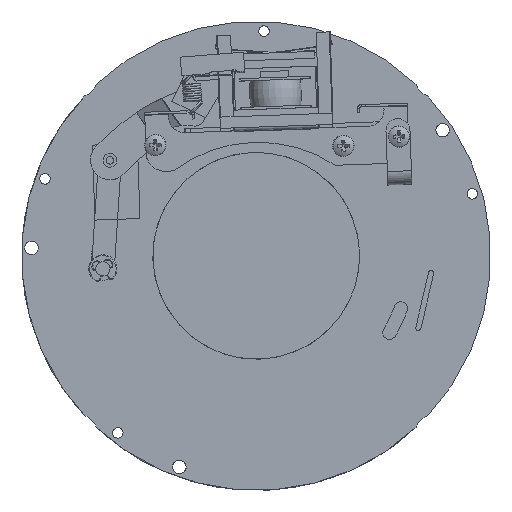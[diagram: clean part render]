
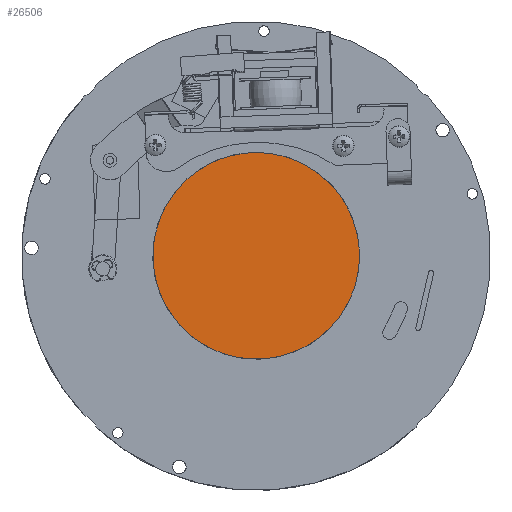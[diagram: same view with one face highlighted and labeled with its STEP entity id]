
A CAD part, top view. The second image highlights one B-rep face of the part: STEP entity #26506.
In plain terms, the highlighted planar face has unit normal (0, 0, 1).
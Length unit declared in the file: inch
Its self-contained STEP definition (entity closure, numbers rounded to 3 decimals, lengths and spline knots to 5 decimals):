
#3024 = CARTESIAN_POINT ( 'NONE',  ( 0., 0.75, 0.21775 ) ) ;
#3391 = DIRECTION ( 'NONE',  ( 0., 1., 0. ) ) ;
#4793 = AXIS2_PLACEMENT_3D ( 'NONE', #15386, #28376, #3391 ) ;
#5883 = PLANE ( 'NONE',  #4793 ) ;
#6602 = ORIENTED_EDGE ( 'NONE', *, *, #25217, .F. ) ;
#10366 = DIRECTION ( 'NONE',  ( 0., 0., -1. ) ) ;
#11807 = CIRCLE ( 'NONE', #24312, 0.75 ) ;
#14849 = EDGE_LOOP ( 'NONE', ( #6602 ) ) ;
#15234 = CARTESIAN_POINT ( 'NONE',  ( 0., 0., 0.21775 ) ) ;
#15386 = CARTESIAN_POINT ( 'NONE',  ( 0., 0., 0.21775 ) ) ;
#16039 = VERTEX_POINT ( 'NONE', #3024 ) ;
#20502 = FACE_OUTER_BOUND ( 'NONE', #14849, .T. ) ;
#24312 = AXIS2_PLACEMENT_3D ( 'NONE', #15234, #10366, #24949 ) ;
#24949 = DIRECTION ( 'NONE',  ( 0., 1., 0. ) ) ;
#25217 = EDGE_CURVE ( 'NONE', #16039, #16039, #11807, .T. ) ;
#26506 = ADVANCED_FACE ( 'NONE', ( #20502 ), #5883, .F. ) ;
#28376 = DIRECTION ( 'NONE',  ( 0., 0., -1. ) ) ;
